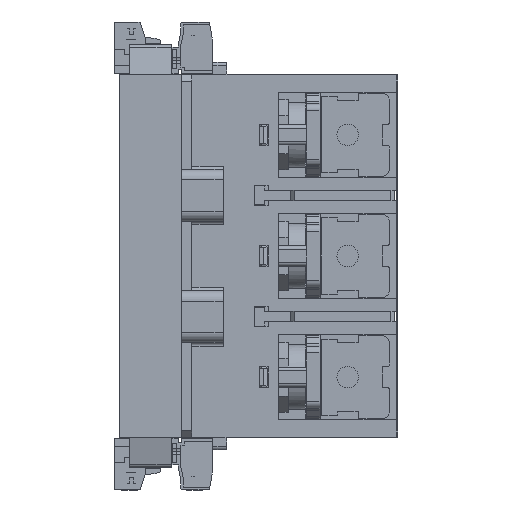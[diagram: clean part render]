
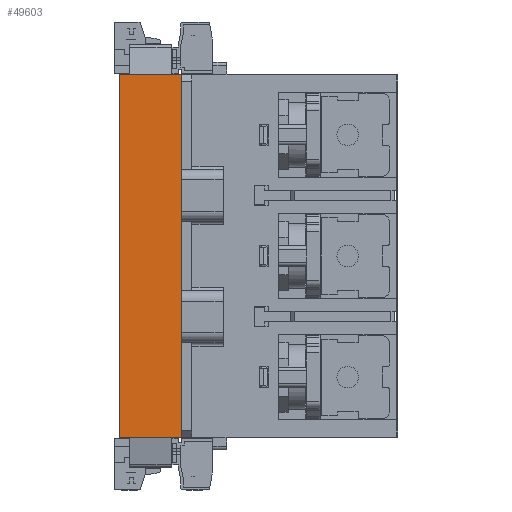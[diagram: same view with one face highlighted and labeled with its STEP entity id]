
A CAD part, left-side view. The second image highlights one B-rep face of the part: STEP entity #49603.
In plain terms, the highlighted planar face has unit normal (-1, 0, 0).
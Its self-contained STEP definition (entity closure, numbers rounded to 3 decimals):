
#1173 = LINE ( 'NONE', #88173, #10096 ) ;
#5920 = CARTESIAN_POINT ( 'NONE',  ( -97.861, -67.646, -48.155 ) ) ;
#9887 = CARTESIAN_POINT ( 'NONE',  ( -97.861, -67.646, -48.155 ) ) ;
#10096 = VECTOR ( 'NONE', #64570, 1000. ) ;
#10541 = DIRECTION ( 'NONE',  ( 0., -1., 0. ) ) ;
#14252 = EDGE_CURVE ( 'NONE', #15122, #32367, #50363, .T. ) ;
#15122 = VERTEX_POINT ( 'NONE', #88376 ) ;
#20989 = CARTESIAN_POINT ( 'NONE',  ( -97.861, -85.646, -48.155 ) ) ;
#21438 = EDGE_CURVE ( 'NONE', #102066, #50896, #93293, .T. ) ;
#21761 = ORIENTED_EDGE ( 'NONE', *, *, #35642, .F. ) ;
#28251 = EDGE_CURVE ( 'NONE', #102066, #15122, #59694, .T. ) ;
#32367 = VERTEX_POINT ( 'NONE', #108701 ) ;
#35642 = EDGE_CURVE ( 'NONE', #32367, #50896, #1173, .T. ) ;
#43407 = DIRECTION ( 'NONE',  ( 0., 0., 1. ) ) ;
#48299 = DIRECTION ( 'NONE',  ( 1., 0., 0. ) ) ;
#49603 = ADVANCED_FACE ( 'NONE', ( #84508 ), #100854, .F. ) ;
#50363 = LINE ( 'NONE', #73951, #63405 ) ;
#50896 = VERTEX_POINT ( 'NONE', #20989 ) ;
#59694 = LINE ( 'NONE', #92426, #74728 ) ;
#63405 = VECTOR ( 'NONE', #10541, 1000. ) ;
#64570 = DIRECTION ( 'NONE',  ( 0., 0., -1. ) ) ;
#73951 = CARTESIAN_POINT ( 'NONE',  ( -97.861, -67.646, 56.845 ) ) ;
#74728 = VECTOR ( 'NONE', #43407, 1000. ) ;
#75064 = EDGE_LOOP ( 'NONE', ( #21761, #97681, #101816, #103775 ) ) ;
#82785 = CARTESIAN_POINT ( 'NONE',  ( -97.861, -67.646, -48.155 ) ) ;
#84508 = FACE_OUTER_BOUND ( 'NONE', #75064, .T. ) ;
#86971 = AXIS2_PLACEMENT_3D ( 'NONE', #82785, #48299, #111799 ) ;
#88173 = CARTESIAN_POINT ( 'NONE',  ( -97.861, -85.646, 60.45 ) ) ;
#88376 = CARTESIAN_POINT ( 'NONE',  ( -97.861, -67.646, 56.845 ) ) ;
#92426 = CARTESIAN_POINT ( 'NONE',  ( -97.861, -67.646, -48.155 ) ) ;
#93293 = LINE ( 'NONE', #9887, #105642 ) ;
#97681 = ORIENTED_EDGE ( 'NONE', *, *, #14252, .F. ) ;
#100854 = PLANE ( 'NONE',  #86971 ) ;
#101816 = ORIENTED_EDGE ( 'NONE', *, *, #28251, .F. ) ;
#102066 = VERTEX_POINT ( 'NONE', #5920 ) ;
#103775 = ORIENTED_EDGE ( 'NONE', *, *, #21438, .T. ) ;
#105642 = VECTOR ( 'NONE', #111514, 1000. ) ;
#108701 = CARTESIAN_POINT ( 'NONE',  ( -97.861, -85.646, 56.845 ) ) ;
#111514 = DIRECTION ( 'NONE',  ( 0., -1., 0. ) ) ;
#111799 = DIRECTION ( 'NONE',  ( 0., 1., 0. ) ) ;
